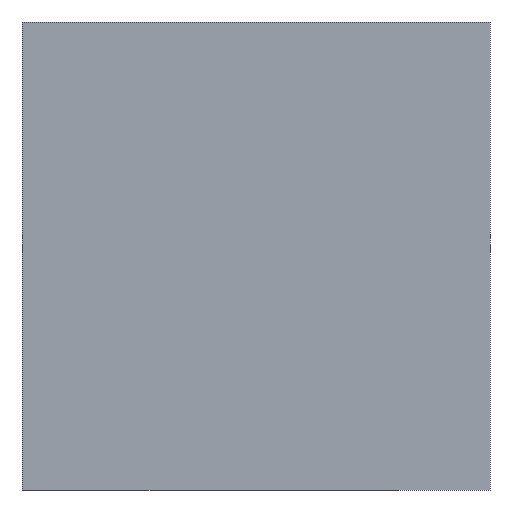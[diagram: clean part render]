
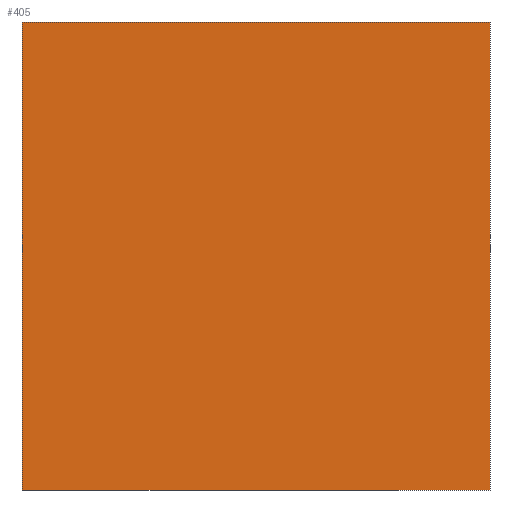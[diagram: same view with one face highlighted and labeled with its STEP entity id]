
A CAD part, left-side view. The second image highlights one B-rep face of the part: STEP entity #405.
In plain terms, the highlighted planar face has unit normal (-1, 0, 0).
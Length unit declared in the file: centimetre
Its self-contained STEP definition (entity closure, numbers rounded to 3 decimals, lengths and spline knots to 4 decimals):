
#17 = CARTESIAN_POINT ( 'NONE',  ( 0., 1000., 0. ) ) ;
#36 = ORIENTED_EDGE ( 'NONE', *, *, #626, .T. ) ;
#82 = LINE ( 'NONE', #248, #307 ) ;
#112 = AXIS2_PLACEMENT_3D ( 'NONE', #325, #275, #319 ) ;
#114 = PLANE ( 'NONE',  #112 ) ;
#132 = CARTESIAN_POINT ( 'NONE',  ( 0., 0., 0. ) ) ;
#168 = FACE_OUTER_BOUND ( 'NONE', #560, .T. ) ;
#179 = VECTOR ( 'NONE', #239, 100. ) ;
#189 = EDGE_CURVE ( 'NONE', #474, #497, #636, .T. ) ;
#239 = DIRECTION ( 'NONE',  ( 0., -1., 0. ) ) ;
#248 = CARTESIAN_POINT ( 'NONE',  ( 0., 1000., 1000. ) ) ;
#275 = DIRECTION ( 'NONE',  ( 1., 0., 0. ) ) ;
#283 = LINE ( 'NONE', #17, #179 ) ;
#307 = VECTOR ( 'NONE', #503, 100. ) ;
#314 = VERTEX_POINT ( 'NONE', #534 ) ;
#319 = DIRECTION ( 'NONE',  ( 0., 0., -1. ) ) ;
#324 = CARTESIAN_POINT ( 'NONE',  ( 0., 1000., 1000. ) ) ;
#325 = CARTESIAN_POINT ( 'NONE',  ( 0., 1000., 1000. ) ) ;
#339 = CARTESIAN_POINT ( 'NONE',  ( 0., 1000., 1000. ) ) ;
#343 = ORIENTED_EDGE ( 'NONE', *, *, #189, .F. ) ;
#405 = ADVANCED_FACE ( 'NONE', ( #168 ), #114, .F. ) ;
#432 = DIRECTION ( 'NONE',  ( 0., 0., -1. ) ) ;
#435 = CARTESIAN_POINT ( 'NONE',  ( 0., 0., 1000. ) ) ;
#440 = EDGE_CURVE ( 'NONE', #497, #610, #648, .T. ) ;
#450 = ORIENTED_EDGE ( 'NONE', *, *, #490, .T. ) ;
#452 = VECTOR ( 'NONE', #576, 100. ) ;
#474 = VERTEX_POINT ( 'NONE', #339 ) ;
#485 = CARTESIAN_POINT ( 'NONE',  ( 0., 0., 1000. ) ) ;
#490 = EDGE_CURVE ( 'NONE', #314, #610, #283, .T. ) ;
#497 = VERTEX_POINT ( 'NONE', #435 ) ;
#503 = DIRECTION ( 'NONE',  ( 0., 0., -1. ) ) ;
#534 = CARTESIAN_POINT ( 'NONE',  ( 0., 1000., 0. ) ) ;
#560 = EDGE_LOOP ( 'NONE', ( #450, #611, #343, #36 ) ) ;
#576 = DIRECTION ( 'NONE',  ( 0., -1., 0. ) ) ;
#610 = VERTEX_POINT ( 'NONE', #132 ) ;
#611 = ORIENTED_EDGE ( 'NONE', *, *, #440, .F. ) ;
#626 = EDGE_CURVE ( 'NONE', #474, #314, #82, .T. ) ;
#627 = VECTOR ( 'NONE', #432, 100. ) ;
#636 = LINE ( 'NONE', #324, #452 ) ;
#648 = LINE ( 'NONE', #485, #627 ) ;
